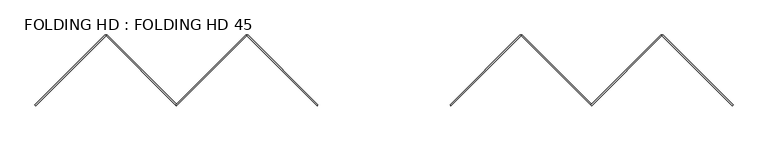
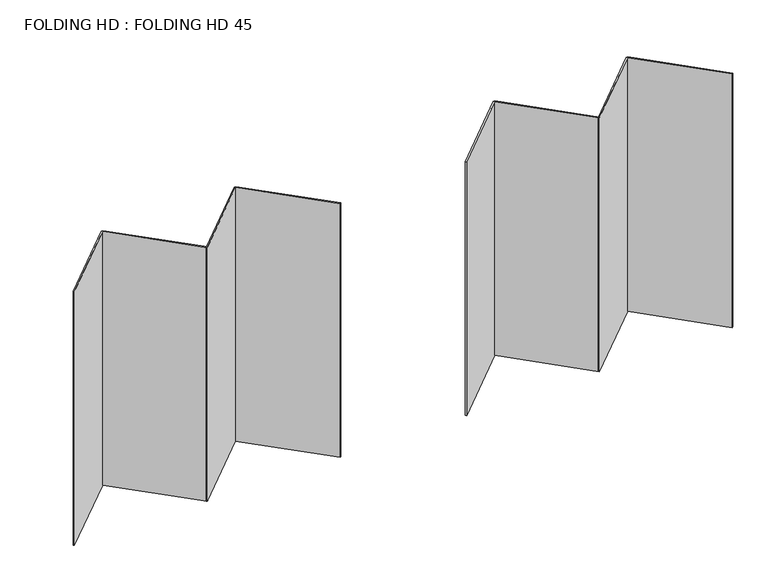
"""IFC4 building model written with IfcOpenShell, lengths in millimetres: plate geometry, FOLDING HD : FOLDING HD 45."""

from ifc_helpers import new_model, si_unit, origin, origin_with_axes, place, context, project, spatial, polyline, outline, extrude, source, transform, mapped, element, save


def folding_hd_folding_hd_45_e61f1cbf(model_context):
    return source(origin(), model_context, "Body", "SweptSolid", [
        extrude(outline(polyline([(2513.6038969, 636.3961031), (1877.2077939, 0.0), (1870.1367261, 7.0710678), (2506.5328291, 643.4671709), (2513.6038969, 636.3961031)])), origin_with_axes(), (0.0, 0.0, 1.0), 2570.0),
        extrude(outline(polyline([(2513.6038969, 636.3961031), (2520.6749647, 643.4671709), (3157.0710678, 7.0710678), (3150.0, 0.0), (2513.6038969, 636.3961031)])), origin_with_axes(), (0.0, 0.0, 1.0), 2570.0),
        extrude(outline(polyline([(1240.8116908, 636.3961031), (1247.8827586, 643.4671709), (1884.2788617, 7.0710678), (1877.2077939, 0.0), (1240.8116908, 636.3961031)])), origin_with_axes(), (0.0, 0.0, 1.0), 2570.0),
        extrude(outline(polyline([(1240.8116908, 636.3961031), (604.4155877, 0.0), (597.3445199, 7.0710678), (1233.740623, 643.4671709), (1240.8116908, 636.3961031)])), origin_with_axes(), (0.0, 0.0, 1.0), 2570.0),
        extrude(outline(polyline([(-1240.8116908, 636.3961031), (-1877.2077939, 0.0), (-1884.2788617, 7.0710678), (-1247.8827586, 643.4671709), (-1240.8116908, 636.3961031)])), origin_with_axes(), (0.0, 0.0, 1.0), 2570.0),
        extrude(outline(polyline([(-1240.8116908, 636.3961031), (-1233.740623, 643.4671709), (-597.3445199, 7.0710678), (-604.4155877, 0.0), (-1240.8116908, 636.3961031)])), origin_with_axes(), (0.0, 0.0, 1.0), 2570.0),
        extrude(outline(polyline([(-2513.6038969, 636.3961031), (-2506.5328291, 643.4671709), (-1870.1367261, 7.0710678), (-1877.2077939, 0.0), (-2513.6038969, 636.3961031)])), origin_with_axes(), (0.0, 0.0, 1.0), 2570.0),
        extrude(outline(polyline([(-2513.6038969, 636.3961031), (-3150.0, 0.0), (-3157.0710678, 7.0710678), (-2520.6749647, 643.4671709), (-2513.6038969, 636.3961031)])), origin_with_axes(), (0.0, 0.0, 1.0), 2570.0),
    ])


if __name__ == "__main__":
    model = new_model("IFC4")
    model_context = context("Model", 3, world=origin())
    ifc_project = project(units=[si_unit("LENGTHUNIT", "METRE", prefix="MILLI")], contexts=[model_context])
    site = spatial("IfcSite", under=ifc_project)
    building = spatial("IfcBuilding", under=site)
    placement = place(None, origin())
    folding_hd_folding_hd_45_shape = folding_hd_folding_hd_45_e61f1cbf(model_context)
    element("IfcPlate", 1, ObjectType="FOLDING HD : FOLDING HD 45", at=placement, inside=building, context=model_context, shape_type="MappedRepresentation", body=[
        mapped(folding_hd_folding_hd_45_shape, transform((0.0, 0.0, 0.0), x_axis=(1.0, 0.0, 0.0), y_axis=(0.0, 1.0, 0.0), z_axis=(0.0, 0.0, 1.0))),
    ])
    save(model, "model.ifc")
